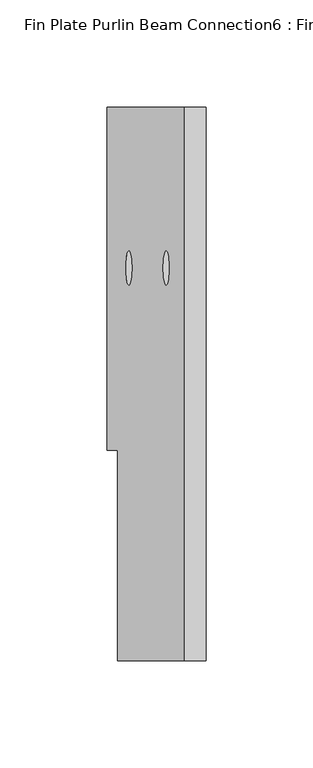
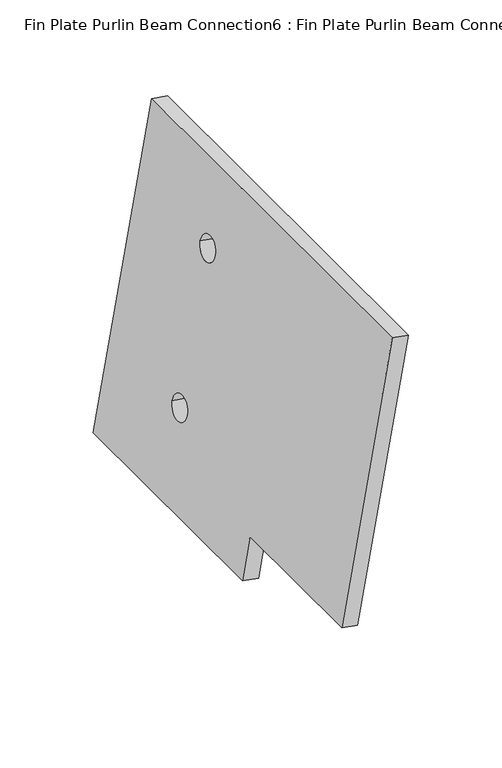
"""IFC4 building model written with IfcOpenShell, lengths in millimetres: proxy geometry, Fin Plate Purlin Beam Connection6 : Fin Plate Purlin Beam Connection."""

from ifc_helpers import new_model, si_unit, point, frame, frame_2d, origin, place, context, project, spatial, polyline, circle_curve, trimmed, segment, composite_curve, outline, extrude, source, transform, mapped, element, save


def fin_plate_purlin_beam_connection6_fin_plate_purlin_beam_f24f73d1(model_context):
    return source(origin(), model_context, "Body", "SweptSolid", [
        extrude(outline(polyline([(181.2383862, 0.0), (181.2383862, -98.2), (208.9560483, -98.2), (208.9560483, -258.2), (0.0, -258.2), (0.0, 0.0), (181.2383862, 0.0)]), holes=[composite_curve([segment(trimmed(circle_curve(frame_2d((50.0, -183.2)), 8.0), [point((50.0, -175.2))], [point((50.0, -191.2))], True, "CARTESIAN"), True, "CONTINUOUS"), segment(trimmed(circle_curve(frame_2d((50.0, -183.2)), 8.0), [point((50.0, -191.2))], [point((50.0, -175.2))], True, "CARTESIAN"), True, "CONTINUOUS")], self_intersect=False), composite_curve([segment(trimmed(circle_curve(frame_2d((150.0, -183.2)), 8.0), [point((150.0, -175.2))], [point((150.0, -191.2))], True, "CARTESIAN"), True, "CONTINUOUS"), segment(trimmed(circle_curve(frame_2d((150.0, -183.2)), 8.0), [point((150.0, -191.2))], [point((150.0, -175.2))], True, "CARTESIAN"), True, "CONTINUOUS")], self_intersect=False)]), frame((-33919.1549402, 11055.4549517, 3809.0045094), z_axis=(-0.9848077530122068, 0.0, 0.17364817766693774), x_axis=(-0.17364817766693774, 0.0, -0.9848077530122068)), (0.0, 0.0, 1.0), 10.0),
    ])


if __name__ == "__main__":
    model = new_model("IFC4")
    model_context = context("Model", 3, world=origin())
    ifc_project = project(units=[si_unit("LENGTHUNIT", "METRE", prefix="MILLI")], contexts=[model_context])
    site = spatial("IfcSite", under=ifc_project)
    building = spatial("IfcBuilding", under=site)
    placement = place(None, origin())
    fin_plate_purlin_beam_connection6_fin_plate_purlin_beam_shape = fin_plate_purlin_beam_connection6_fin_plate_purlin_beam_f24f73d1(model_context)
    element("IfcBuildingElementProxy", 1, Name="Fin Plate Purlin Beam Connection6 : Fin Plate Purlin Beam Connection", ObjectType="Fin Plate Purlin Beam Connection6 : Fin Plate Purlin Beam Connection", at=placement, inside=building, context=model_context, shape_type="MappedRepresentation", body=[
        mapped(fin_plate_purlin_beam_connection6_fin_plate_purlin_beam_shape, transform((0.0, 0.0, 0.0), x_axis=(1.0, 0.0, 0.0), y_axis=(0.0, 1.0, 0.0), z_axis=(0.0, 0.0, 1.0))),
    ])
    save(model, "model.ifc")
